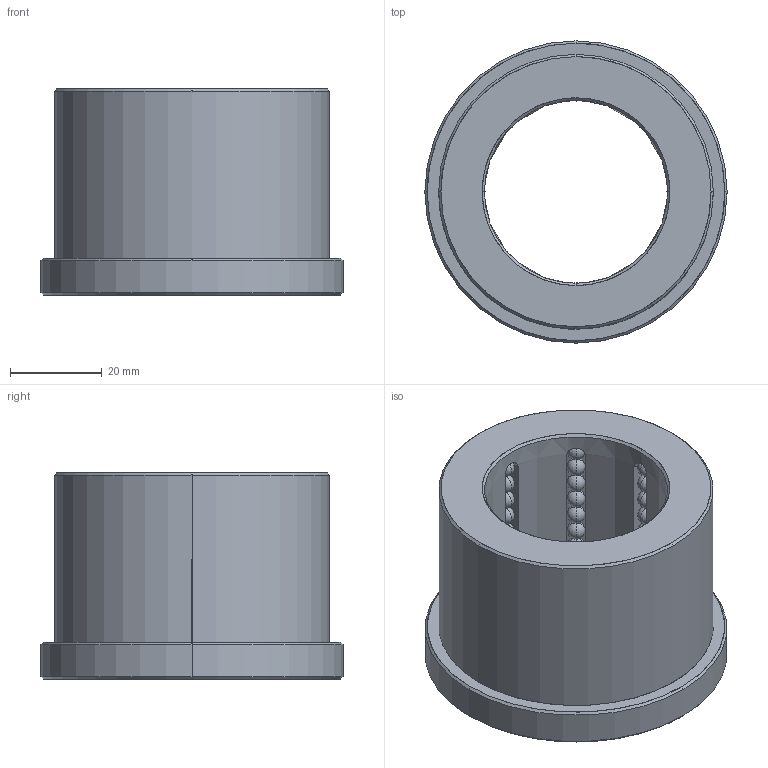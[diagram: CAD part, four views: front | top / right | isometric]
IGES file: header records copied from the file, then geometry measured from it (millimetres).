
Start section: START RECORD GO HERE.
Global section: file name: B8014045.igs; native system: DASSAULT SYSTEMES CATIA V5 R20 - www.3ds.com; preprocessor: CATIA Version 5 Release 20 ; author: Utente; organization: NB04-ASUS; date: 20200419.142801; units: millimetre
Bounding box: 66 x 66 x 45 mm (x, y, z)
Surface area: 24524.6 mm2 (no closed solid volume)
Topology: 0 solids, 0 shells, 357 faces, 1492 edges, 916 vertices
Faces by surface type: revolution 330, plane 27
